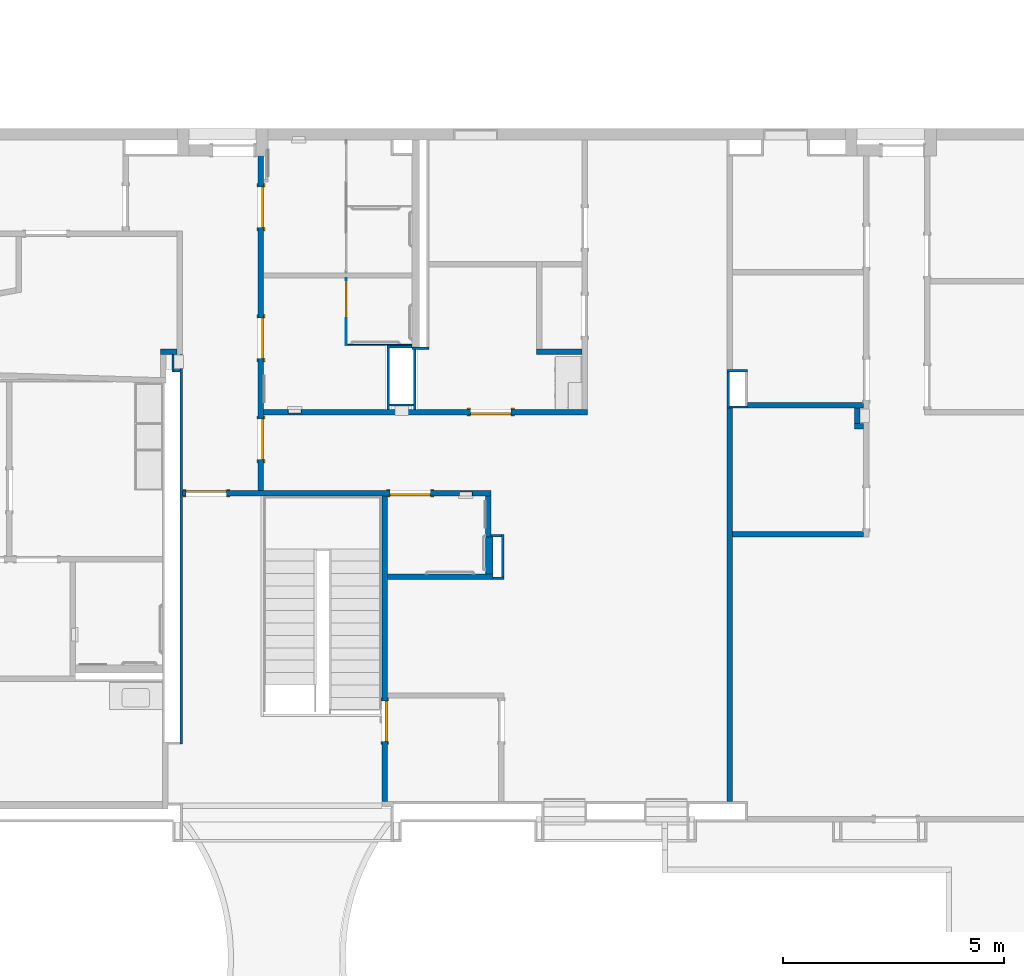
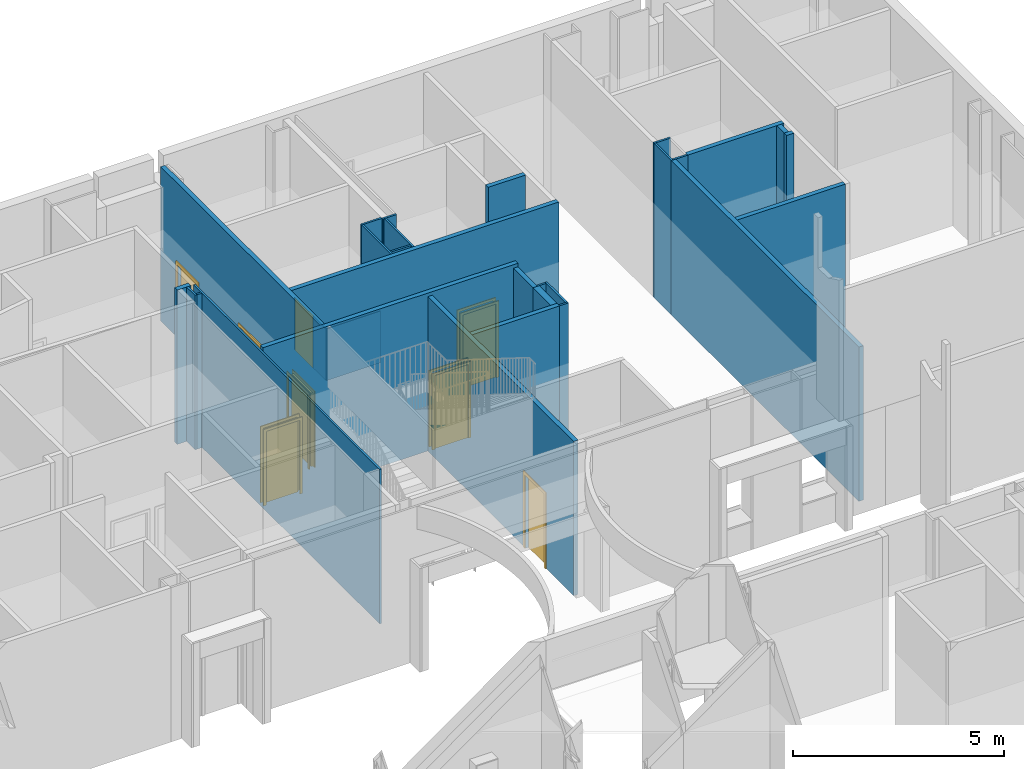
# One storey, part 39 of 82: 30 walls, 8 doors, 10 openings.
"""IFC2X3 building model written with IfcOpenShell, lengths in metres."""

import ifcopenshell
import ifcopenshell.guid

model = None  # the IFC model being written
_history = None  # IfcOwnerHistory: only IFC2X3 demands one
_inside = {}  # id of a spatial element -> (the spatial element, [elements in it])
_under = {}  # id of a project, library or spatial element -> (it, [spatial elements below it])
_declared = {}  # id of a project -> (the project, [libraries it declares])
_typed = {}  # id of a type object -> (the type object, [elements of that type])
_made_of = {}  # id of a material, layer set ... -> (it, [elements and type objects made of it])


def new_model(schema):
    """Start an empty IFC model of exactly this schema.

    Asked for "IFC4X3", IfcOpenShell would pick the latest addendum, in which some entities
    have other attributes; the version numbers below select the first issue.
    IFC2X3 requires an IfcOwnerHistory on every rooted entity: one is made here for all.
    """
    global model, _history
    if schema == "IFC4X3":
        model = ifcopenshell.file(schema_version=(4, 3, 0, 0))
    else:
        model = ifcopenshell.file(schema=schema)
    _inside.clear()
    _under.clear()
    _declared.clear()
    _typed.clear()
    _made_of.clear()
    _history = None
    if model.schema == "IFC2X3":
        org = make("IfcOrganization", Name="unknown")
        user = make(
            "IfcPersonAndOrganization",
            ThePerson=make("IfcPerson", FamilyName="unknown"),
            TheOrganization=org,
        )
        app = make(
            "IfcApplication",
            ApplicationDeveloper=org,
            Version="unknown",
            ApplicationFullName="unknown",
            ApplicationIdentifier="unknown",
        )
        _history = make(
            "IfcOwnerHistory",
            OwningUser=user,
            OwningApplication=app,
            ChangeAction="ADDED",
            CreationDate=0,
        )
    return model


def make(cls, **values):
    """One entity of the class cls with the attributes given. An attribute that is None is left unset."""
    return model.create_entity(
        cls, **{name: value for name, value in values.items() if value is not None}
    )


def entity(cls, *values):
    """Any entity or typed value of the class cls, its attributes in the order of the schema. None: left unset."""
    e = model.create_entity(cls)
    for i, value in enumerate(values):
        if value is not None:
            e[i] = value
    return e


def rooted(cls, **values):
    """An entity with a GlobalId (a new one), such as an element, a storey or a relation."""
    return make(cls, GlobalId=ifcopenshell.guid.new(), OwnerHistory=_history, **values)


def si_unit(unit_type, name, prefix=None):
    """IfcSIUnit, for example si_unit("LENGTHUNIT", "METRE", prefix="MILLI")."""
    return make("IfcSIUnit", UnitType=unit_type, Prefix=prefix, Name=name)


def converted_unit(unit_type, name, factor, base, dimensions=None, offset=None):
    """IfcConversionBasedUnit, such as the inch: factor (a typed value) times the base unit."""
    return make(
        "IfcConversionBasedUnit"
        if offset is None
        else "IfcConversionBasedUnitWithOffset",
        ConversionOffset=offset,
        Dimensions=None
        if dimensions is None
        else entity("IfcDimensionalExponents", *dimensions),
        UnitType=unit_type,
        Name=name,
        ConversionFactor=make(
            "IfcMeasureWithUnit", ValueComponent=factor, UnitComponent=base
        ),
    )


def assignment(units):
    """IfcUnitAssignment: the units of a project."""
    return None if units is None else make("IfcUnitAssignment", Units=units)


def point(xyz):
    """IfcCartesianPoint."""
    return None if xyz is None else make("IfcCartesianPoint", Coordinates=xyz)


def direction(xyz):
    """IfcDirection."""
    return None if xyz is None else make("IfcDirection", DirectionRatios=xyz)


def frame(location, z_axis=None, x_axis=None):
    """IfcAxis2Placement3D, a coordinate frame: its origin and axes. An axis left out is left unset."""
    return make(
        "IfcAxis2Placement3D",
        Location=point(location),
        Axis=direction(z_axis),
        RefDirection=direction(x_axis),
    )


def frame_2d(location, x_axis=None):
    """IfcAxis2Placement2D, a coordinate frame in the plane: its origin and x axis."""
    return make(
        "IfcAxis2Placement2D", Location=point(location), RefDirection=direction(x_axis)
    )


def origin():
    """The frame at (0, 0, 0) with its axes left unset."""
    return frame((0.0, 0.0, 0.0))


def origin_2d_with_axis():
    """The frame at (0, 0) in the plane with the x axis (1, 0) written out."""
    return frame_2d((0.0, 0.0), x_axis=(1.0, 0.0))


def place(relative_to, where):
    """IfcLocalPlacement: puts the frame where relative to a parent placement (None: the world)."""
    return make(
        "IfcLocalPlacement", PlacementRelTo=relative_to, RelativePlacement=where
    )


def context(
    kind, dimensions, precision=None, world=None, true_north=None, identifier=None
):
    """IfcGeometricRepresentationContext, for example the 3D "Model" context."""
    return make(
        "IfcGeometricRepresentationContext",
        ContextIdentifier=identifier,
        ContextType=kind,
        CoordinateSpaceDimension=dimensions,
        Precision=precision,
        WorldCoordinateSystem=world,
        TrueNorth=true_north,
    )


def project(units=None, contexts=None):
    """IfcProject with its units and contexts."""
    return rooted(
        "IfcProject",
        Name="project",
        RepresentationContexts=contexts,
        UnitsInContext=assignment(units),
    )


def spatial(cls, under=None, at=None, **own):
    """A site, building, storey or space (cls), placed at a placement, below another one or the project."""
    s = rooted(cls, ObjectPlacement=at, **own)
    if under is not None:
        _under.setdefault(under.id(), (under, []))[1].append(s)
    return s


def polyline(points):
    """IfcPolyline through the points."""
    return make("IfcPolyline", Points=[point(p) for p in points])


def profile(cls, at=None, kind="AREA", **sizes):
    """A parametric profile (cls). Its sizes go by their IFC names, for example OverallWidth=200.0."""
    return make(cls, ProfileType=kind, Position=at, **sizes)


def rectangle(**sizes):
    """IfcRectangleProfileDef."""
    return profile("IfcRectangleProfileDef", **sizes)


def outline(outer, holes=None, kind="AREA"):
    """IfcArbitraryClosedProfileDef: a profile drawn as a closed curve; with holes, ...WithVoids."""
    if holes is None:
        return make("IfcArbitraryClosedProfileDef", ProfileType=kind, OuterCurve=outer)
    return make(
        "IfcArbitraryProfileDefWithVoids",
        ProfileType=kind,
        OuterCurve=outer,
        InnerCurves=holes,
    )


def extrude(swept, where, along, depth):
    """IfcExtrudedAreaSolid: the profile swept, set in the frame where, extruded along a direction by depth."""
    return make(
        "IfcExtrudedAreaSolid",
        SweptArea=swept,
        Position=where,
        ExtrudedDirection=direction(along),
        Depth=depth,
    )


def shape(context_of_items, identifier, shape_type, items):
    """IfcShapeRepresentation: the items that make up one representation, for example the "Body"."""
    return make(
        "IfcShapeRepresentation",
        ContextOfItems=context_of_items,
        RepresentationIdentifier=identifier,
        RepresentationType=shape_type,
        Items=items,
    )


def source(mapping_origin, context_of_items, identifier, shape_type, items):
    """IfcRepresentationMap: a shape defined once, which mapped items show again and again."""
    return make(
        "IfcRepresentationMap",
        MappingOrigin=mapping_origin,
        MappedRepresentation=shape(context_of_items, identifier, shape_type, items),
    )


def transform(
    local_origin,
    x_axis=None,
    y_axis=None,
    z_axis=None,
    scale=None,
    scale2=None,
    scale3=None,
    uniform=True,
):
    """IfcCartesianTransformationOperator3D, or its non-uniform kind. x_axis, y_axis, z_axis: its Axis1, 2, 3."""
    if uniform:
        return make(
            "IfcCartesianTransformationOperator3D",
            Axis1=direction(x_axis),
            Axis2=direction(y_axis),
            LocalOrigin=point(local_origin),
            Scale=scale,
            Axis3=direction(z_axis),
        )
    return make(
        "IfcCartesianTransformationOperator3DnonUniform",
        Axis1=direction(x_axis),
        Axis2=direction(y_axis),
        LocalOrigin=point(local_origin),
        Scale=scale,
        Axis3=direction(z_axis),
        Scale2=scale2,
        Scale3=scale3,
    )


def mapped(mapping_source, mapping_target):
    """IfcMappedItem: shows the shape of a source again, moved by a transform."""
    return make(
        "IfcMappedItem", MappingSource=mapping_source, MappingTarget=mapping_target
    )


def material(Name=None, Category=None):
    """IfcMaterial."""
    return make("IfcMaterial", Name=Name, Category=Category)


def layer(
    of_material, thickness, ventilated=None, Name=None, Category=None, Priority=None
):
    """IfcMaterialLayer: one layer of a wall or slab, of a material (None: an air gap)."""
    return make(
        "IfcMaterialLayer",
        Material=of_material,
        LayerThickness=thickness,
        IsVentilated=ventilated,
        Name=Name,
        Category=Category,
        Priority=Priority,
    )


def layer_set(layers, Name=None):
    """IfcMaterialLayerSet."""
    return make("IfcMaterialLayerSet", MaterialLayers=layers, LayerSetName=Name)


def layer_usage(for_layer_set, set_direction, sense, offset, extent=None):
    """IfcMaterialLayerSetUsage: how a layer set lies in its element."""
    return make(
        "IfcMaterialLayerSetUsage",
        ForLayerSet=for_layer_set,
        LayerSetDirection=set_direction,
        DirectionSense=sense,
        OffsetFromReferenceLine=offset,
        ReferenceExtent=extent,
    )


def made_of(thing, what):
    """Note that an element or type object is made of a material, layer set ...; save() writes the relation."""
    if what is not None:
        _made_of.setdefault(what.id(), (what, []))[1].append(thing)
    return thing


def type_object(cls, material=None, **own):
    """A type object (cls), such as IfcWallType, which elements share."""
    return made_of(rooted(cls, **own), material)


def type_shapes(of_type, sources):
    """Give a type object the sources (RepresentationMaps) that its elements show as mapped items."""
    of_type.RepresentationMaps = sources


def element(
    cls,
    number,
    at=None,
    inside=None,
    cuts=None,
    type_object=None,
    material=None,
    context=None,
    identifier="Body",
    shape_type=None,
    held_by="IfcProductDefinitionShape",
    body=None,
    shapes=None,
    **own,
):
    """One element of the class cls, such as IfcWall. Its Tag is "e" and its number.

    at: its placement. inside: the storey or other place that contains it. cuts: it is an
    opening in that element (IfcRelVoidsElement). A single representation is given by context,
    identifier, shape_type and body (its items); several are given by shapes. held_by: the class
    of the entity that holds the representations. save() writes the other relations.
    """
    e = rooted(cls, Tag="e%d" % number, ObjectPlacement=at, **own)
    if body is not None:
        shapes = [shape(context, identifier, shape_type, body)]
    if shapes is not None:
        e.Representation = make(held_by, Representations=shapes)
    if inside is not None:
        _inside.setdefault(inside.id(), (inside, []))[1].append(e)
    if cuts is not None:
        rooted(
            "IfcRelVoidsElement", RelatingBuildingElement=cuts, RelatedOpeningElement=e
        )
    if type_object is not None:
        _typed.setdefault(type_object.id(), (type_object, []))[1].append(e)
    return made_of(e, material)


def fill(opening, filler):
    """IfcRelFillsElement: the door or window that sits in an opening."""
    return rooted(
        "IfcRelFillsElement",
        RelatingOpeningElement=opening,
        RelatedBuildingElement=filler,
    )


def aggregate(whole, parts):
    """IfcRelAggregates: a whole, such as a stair, and the parts it consists of."""
    return rooted("IfcRelAggregates", RelatingObject=whole, RelatedObjects=parts)


def save(model, path):
    """Write the relations noted so far, then the file.

    IfcRelAggregates (storeys below a building ...), IfcRelContainedInSpatialStructure (elements
    in a storey), IfcRelDefinesByType, IfcRelAssociatesMaterial and IfcRelDeclares: one each for
    every whole, place, type object, material and project.
    """
    for whole, parts in _under.values():
        aggregate(whole, parts)
    for where, things in _inside.values():
        rooted(
            "IfcRelContainedInSpatialStructure",
            RelatedElements=things,
            RelatingStructure=where,
        )
    for kind, things in _typed.values():
        rooted("IfcRelDefinesByType", RelatedObjects=things, RelatingType=kind)
    for what, things in _made_of.values():
        rooted("IfcRelAssociatesMaterial", RelatedObjects=things, RelatingMaterial=what)
    for by, libraries in _declared.values():
        rooted("IfcRelDeclares", RelatingContext=by, RelatedDefinitions=libraries)
    model.write(path)


model = new_model("IFC2X3")

# Units and contexts
model_context = context("Model", 3, precision=1e-09, world=origin())
plan_context = context("Plan", 3, precision=1e-09, world=origin())
ifc_project = project(units=[si_unit("LENGTHUNIT", "METRE"), si_unit("AREAUNIT", "SQUARE_METRE"), si_unit("VOLUMEUNIT", "CUBIC_METRE"), converted_unit("PLANEANGLEUNIT", "DEGREE", entity("IfcRatioMeasure", 0.01745329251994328), si_unit("PLANEANGLEUNIT", "RADIAN"), dimensions=[0, 0, 0, 0, 0, 0, 0]), si_unit("TIMEUNIT", "SECOND")], contexts=[model_context, plan_context])

# Site, building, storey
site_placement = place(None, origin())
site = spatial("IfcSite", under=ifc_project, at=site_placement, Name="Default", CompositionType="ELEMENT")
building_placement = place(site_placement, origin())
building = spatial("IfcBuilding", under=site, at=building_placement, CompositionType="ELEMENT")
storey_placement = place(building_placement, origin())
storey = spatial("IfcBuildingStorey", under=building, at=storey_placement, Name="First Floor", CompositionType="ELEMENT", Elevation=-3.531500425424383e-13)

# Wall, openings, doors
ifc_material_1 = material(Name="Plasterboard")
ifc_layer_1 = layer(ifc_material_1, 0.016)
ifc_material_2 = material(Name="Metal - Stud Layer")
ifc_layer_2 = layer(ifc_material_2, 0.092)
ifc_layer_3 = layer(ifc_material_1, 0.016)
ifc_layer_set_1 = layer_set([ifc_layer_1, ifc_layer_2, ifc_layer_3], Name="Basic Wall:Interior - Partition (92mm Stud)")
ifc_layer_usage_1 = layer_usage(ifc_layer_set_1, "AXIS2", "NEGATIVE", 0.062)
wall_1_placement = place(storey_placement, frame((-18.0580000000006, 42.28000069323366, 0.0), z_axis=(0.0, 0.0, 1.0), x_axis=(0.0, 1.0, 0.0)))
wall_1 = element("IfcWallStandardCase", 1, at=wall_1_placement, inside=storey, material=ifc_layer_usage_1, Name="Basic Wall:Interior - Partition (92mm Stud)", ObjectType="Basic Wall:Interior - Partition (92mm Stud)", context=model_context, shape_type="SweptSolid", body=[
    extrude(rectangle(XDim=7.696499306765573, YDim=0.1240000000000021, at=frame_2d((3.848249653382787, 0.0), x_axis=(-1.0, 0.0))), origin(), (0.0, 0.0, 1.0), 4.468000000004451),
])
opening_1_placement = place(wall_1_placement, frame((6.862999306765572, 0.06199999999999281, 0.0)))
opening_1 = element("IfcOpeningElement", 2, at=opening_1_placement, cuts=wall_1, Name="M_Single-Flush:0915 x 2134mm:0915 x 2134mm:1", ObjectType="Opening", context=model_context, shape_type="SweptSolid", body=[
    extrude(rectangle(XDim=0.9149999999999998, YDim=2.134, at=frame_2d((1.067, 0.4574999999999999), x_axis=(0.0, -1.0))), frame((0.0, 0.0, 0.0), z_axis=(0.0, -1.0, 0.0), x_axis=(0.0, 0.0, 1.0)), (0.0, 0.0, 1.0), 0.124),
])
opening_2_placement = place(wall_1_placement, frame((3.899999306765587, 0.06199999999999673, 0.0)))
opening_2 = element("IfcOpeningElement", 3, at=opening_2_placement, cuts=wall_1, Name="M_Single-Flush:0915 x 2134mm:0915 x 2134mm:1", ObjectType="Opening", context=model_context, shape_type="SweptSolid", body=[
    extrude(rectangle(XDim=0.9149999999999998, YDim=2.134, at=frame_2d((1.067, 0.4575), x_axis=(0.0, 1.0))), frame((0.0, 0.0, 0.0), z_axis=(0.0, -1.0, 0.0), x_axis=(0.0, 0.0, 1.0)), (0.0, 0.0, 1.0), 0.124),
])
opening_3_placement = place(wall_1_placement, frame((1.609999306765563, 0.06199999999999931, 0.0)))
opening_3 = element("IfcOpeningElement", 4, at=opening_3_placement, cuts=wall_1, Name="M_Single-Flush:0915 x 2134mm:0915 x 2134mm:1", ObjectType="Opening", context=model_context, shape_type="SweptSolid", body=[
    extrude(rectangle(XDim=0.9149999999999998, YDim=2.134, at=frame_2d((1.067, 0.4575000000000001), x_axis=(0.0, -1.0))), frame((0.0, 0.0, 0.0), z_axis=(0.0, -1.0, 0.0), x_axis=(0.0, 0.0, 1.0)), (0.0, 0.0, 1.0), 0.124),
])
door_style_1 = type_object("IfcDoorStyle", Name="0915 x 2134mm", ConstructionType="NOTDEFINED", OperationType="SINGLE_SWING_RIGHT", ParameterTakesPrecedence=False, Sizeable=False)
shared_shape_1 = source(origin(), model_context, "Body", "SweptSolid", [
    extrude(outline(polyline([(-0.5335, -1.123999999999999), (0.5334999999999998, -1.123999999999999), (0.5334999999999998, 1.086), (0.4574999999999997, 1.086), (0.4574999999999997, -1.048000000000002), (-0.4574999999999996, -1.048000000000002), (-0.4574999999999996, 1.086), (-0.5335, 1.086), (-0.5335, -1.123999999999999)])), frame((0.4575000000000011, 0.1239999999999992, 1.086), z_axis=(0.0, 1.0, 0.0), x_axis=(1.0, 0.0, 0.0)), (0.0, 0.0, 1.0), 0.02499999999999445),
    extrude(outline(polyline([(-1.123999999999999, -0.5334999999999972), (1.085999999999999, -0.5334999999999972), (1.085999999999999, -0.4575000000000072), (-1.048, -0.4575000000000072), (-1.048, 0.4575000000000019), (1.085999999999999, 0.4575000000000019), (1.085999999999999, 0.5335000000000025), (-1.123999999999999, 0.5335000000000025), (-1.123999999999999, -0.5334999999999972)])), frame((0.4575000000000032, -0.02500000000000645, 1.085999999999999), z_axis=(0.0, 1.0, 0.0), x_axis=(0.0, 0.0, -1.0)), (0.0, 0.0, 1.0), 0.02500000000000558),
    extrude(rectangle(XDim=0.051, YDim=0.9149999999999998, at=origin_2d_with_axis()), frame((0.4575000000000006, 0.09849999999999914, 0.0), z_axis=(0.0, 0.0, 1.0), x_axis=(0.0, 1.0, 0.0)), (0.0, 0.0, 1.0), 2.133999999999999),
])
type_shapes(door_style_1, [shared_shape_1])
door_1_placement = place(opening_2_placement, frame((0.0, 0.0, 0.0), z_axis=(0.0, 0.0, 1.0), x_axis=(-1.0, 0.0, 0.0)))
door_1 = element("IfcDoor", 5, at=door_1_placement, inside=storey, type_object=door_style_1, Name="M_Single-Flush:0915 x 2134mm:0915 x 2134mm", ObjectType="0915 x 2134mm", OverallHeight=2.134, OverallWidth=0.9149999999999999, context=model_context, shape_type="MappedRepresentation", body=[
    mapped(shared_shape_1, transform((0.0, 0.0, 0.0), scale=1.0)),
])
fill(opening_2, door_1)
door_style_2 = type_object("IfcDoorStyle", Name="0915 x 2134mm", ConstructionType="NOTDEFINED", OperationType="SINGLE_SWING_LEFT", ParameterTakesPrecedence=False, Sizeable=False)
shared_shape_2 = source(origin(), model_context, "Body", "SweptSolid", [
    extrude(outline(polyline([(-0.5335, -1.123999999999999), (0.5334999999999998, -1.123999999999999), (0.5334999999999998, 1.086), (0.4574999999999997, 1.086), (0.4574999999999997, -1.048000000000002), (-0.4574999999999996, -1.048000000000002), (-0.4574999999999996, 1.086), (-0.5335, 1.086), (-0.5335, -1.123999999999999)])), frame((0.4575000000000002, 0.1489999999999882, 1.086), z_axis=(0.0, -1.0, 0.0), x_axis=(-1.0, 0.0, 0.0)), (0.0, 0.0, 1.0), 0.02499999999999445),
    extrude(outline(polyline([(-1.123999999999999, -0.5334999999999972), (1.085999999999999, -0.5334999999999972), (1.085999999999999, -0.4575000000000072), (-1.048, -0.4575000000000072), (-1.048, 0.4575000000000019), (1.085999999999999, 0.4575000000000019), (1.085999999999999, 0.5335000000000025), (-1.123999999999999, 0.5335000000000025), (-1.123999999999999, -0.5334999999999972)])), frame((0.4574999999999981, 0.0, 1.085999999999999), z_axis=(0.0, -1.0, 0.0), x_axis=(0.0, 0.0, -1.0)), (0.0, 0.0, 1.0), 0.02500000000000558),
    extrude(rectangle(XDim=0.9149999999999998, YDim=0.051, at=origin_2d_with_axis()), frame((0.4575000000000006, 0.09849999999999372, 0.0)), (0.0, 0.0, 1.0), 2.133999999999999),
])
type_shapes(door_style_2, [shared_shape_2])
door_2_placement = place(opening_3_placement, frame((0.0, 0.0, 0.0), z_axis=(0.0, 0.0, 1.0), x_axis=(-1.0, 0.0, 0.0)))
door_2 = element("IfcDoor", 6, at=door_2_placement, inside=storey, type_object=door_style_2, Name="M_Single-Flush:0915 x 2134mm:0915 x 2134mm", ObjectType="0915 x 2134mm", OverallHeight=2.134, OverallWidth=0.9149999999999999, context=model_context, shape_type="MappedRepresentation", body=[
    mapped(shared_shape_2, transform((0.0, 0.0, 0.0), scale=1.0)),
])
fill(opening_3, door_2)
door_3_placement = place(opening_1_placement, frame((0.0, 0.0, 0.0), z_axis=(0.0, 0.0, 1.0), x_axis=(-1.0, 0.0, 0.0)))
door_3 = element("IfcDoor", 7, at=door_3_placement, inside=storey, type_object=door_style_2, Name="M_Single-Flush:0915 x 2134mm:0915 x 2134mm", ObjectType="0915 x 2134mm", OverallHeight=2.134, OverallWidth=0.9149999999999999, context=model_context, shape_type="MappedRepresentation", body=[
    mapped(shared_shape_2, transform((0.0, 0.0, 0.0), scale=1.0)),
])
fill(opening_1, door_3)

wall_2_placement = place(storey_placement, frame((-19.83000000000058, 42.21800069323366, 0.0)))
wall_2 = element("IfcWallStandardCase", 8, at=wall_2_placement, inside=storey, material=ifc_layer_usage_1, Name="Basic Wall:Interior - Partition (92mm Stud)", ObjectType="Basic Wall:Interior - Partition (92mm Stud)", context=model_context, shape_type="SweptSolid", body=[
    extrude(rectangle(XDim=6.979999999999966, YDim=0.1240000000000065, at=frame_2d((3.489999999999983, 0.0), x_axis=(-1.0, 0.0))), origin(), (0.0, 0.0, 1.0), 4.570000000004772),
])
opening_4_placement = place(wall_2_placement, origin())
element("IfcOpeningElement", 9, at=opening_4_placement, cuts=wall_2, ObjectType="Opening", context=model_context, shape_type="SweptSolid", body=[
    extrude(rectangle(XDim=1.362075, YDim=0.2984499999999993, at=origin_2d_with_axis()), frame((6.410899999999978, -0.1255000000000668, 1.041399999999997), z_axis=(0.0, 1.0, 0.0), x_axis=(0.0, 0.0, -1.0)), (0.0, 0.0, 1.0), 0.15240000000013),
])
opening_5_placement = place(wall_2_placement, frame((5.609000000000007, 0.06199999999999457, 0.0)))
opening_5 = element("IfcOpeningElement", 10, at=opening_5_placement, cuts=wall_2, Name="M_Single-Flush:0915 x 2134mm:0915 x 2134mm:1", ObjectType="Opening", context=model_context, shape_type="SweptSolid", body=[
    extrude(rectangle(XDim=0.9149999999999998, YDim=2.134, at=frame_2d((1.067, 0.4575), x_axis=(0.0, 1.0))), frame((0.0, 0.0, 0.0), z_axis=(0.0, -1.0, 0.0), x_axis=(0.0, 0.0, 1.0)), (0.0, 0.0, 1.0), 0.124),
])
opening_6_placement = place(wall_2_placement, frame((0.07999999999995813, -0.06199999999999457, 0.0)))
opening_6 = element("IfcOpeningElement", 11, at=opening_6_placement, cuts=wall_2, Name="M_Single-Flush:0915 x 2134mm:0915 x 2134mm:1", ObjectType="Opening", context=model_context, shape_type="SweptSolid", body=[
    extrude(rectangle(XDim=0.9149999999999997, YDim=2.134, at=frame_2d((1.067, 0.4575000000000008), x_axis=(0.0, -1.0))), frame((0.0, 0.0, 0.0), z_axis=(0.0, 1.0, 0.0), x_axis=(0.0, 0.0, 1.0)), (0.0, 0.0, 1.0), 0.124),
])
door_4_placement = place(opening_5_placement, frame((0.0, 0.0, 0.0), z_axis=(0.0, 0.0, 1.0), x_axis=(-1.0, 0.0, 0.0)))
door_4 = element("IfcDoor", 12, at=door_4_placement, inside=storey, type_object=door_style_1, Name="M_Single-Flush:0915 x 2134mm:0915 x 2134mm", ObjectType="0915 x 2134mm", OverallHeight=2.134, OverallWidth=0.9149999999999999, context=model_context, shape_type="MappedRepresentation", body=[
    mapped(shared_shape_1, transform((0.0, 0.0, 0.0), scale=1.0)),
])
fill(opening_5, door_4)
door_5_placement = place(opening_6_placement, origin())
door_5 = element("IfcDoor", 13, at=door_5_placement, inside=storey, type_object=door_style_2, Name="M_Single-Flush:0915 x 2134mm:0915 x 2134mm", ObjectType="0915 x 2134mm", OverallHeight=2.134, OverallWidth=0.9149999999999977, context=model_context, shape_type="MappedRepresentation", body=[
    mapped(shared_shape_2, transform((0.0, 0.0, 0.0), scale=1.0)),
])
fill(opening_6, door_5)

# Wall, opening, door
wall_3_placement = place(storey_placement, frame((-15.25800000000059, 35.23999999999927, 0.0), z_axis=(0.0, 0.0, 1.0), x_axis=(0.0, 1.0, 0.0)))
wall_3 = element("IfcWallStandardCase", 14, at=wall_3_placement, inside=storey, material=ifc_layer_usage_1, Name="Basic Wall:Interior - Partition (92mm Stud)", ObjectType="Basic Wall:Interior - Partition (92mm Stud)", context=model_context, shape_type="SweptSolid", body=[
    extrude(rectangle(XDim=6.916000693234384, YDim=0.1240000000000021, at=frame_2d((3.458000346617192, 0.0), x_axis=(-1.0, 0.0))), origin(), (0.0, 0.0, 1.0), 4.46800000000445),
])
opening_7_placement = place(wall_3_placement, frame((2.275999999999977, 0.0619999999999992, 0.0)))
opening_7 = element("IfcOpeningElement", 15, at=opening_7_placement, cuts=wall_3, Name="M_Single-Flush:0915 x 2134mm:0915 x 2134mm:1", ObjectType="Opening", context=model_context, shape_type="SweptSolid", body=[
    extrude(rectangle(XDim=0.9149999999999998, YDim=2.134, at=frame_2d((1.067, 0.4575000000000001), x_axis=(0.0, -1.0))), frame((0.0, 0.0, 0.0), z_axis=(0.0, -1.0, 0.0), x_axis=(0.0, 0.0, 1.0)), (0.0, 0.0, 1.0), 0.124),
])
door_6_placement = place(opening_7_placement, frame((0.0, 0.0, 0.0), z_axis=(0.0, 0.0, 1.0), x_axis=(-1.0, 0.0, 0.0)))
door_6 = element("IfcDoor", 16, at=door_6_placement, inside=storey, type_object=door_style_2, Name="M_Single-Flush:0915 x 2134mm:0915 x 2134mm", ObjectType="0915 x 2134mm", OverallHeight=2.134, OverallWidth=0.9149999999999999, context=model_context, shape_type="MappedRepresentation", body=[
    mapped(shared_shape_2, transform((0.0, 0.0, 0.0), scale=1.0)),
])
fill(opening_7, door_6)

# Wall, openings, door
wall_4_placement = place(storey_placement, frame((-10.67000000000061, 44.05199999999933, 0.0), z_axis=(0.0, 0.0, 1.0), x_axis=(-1.0, 0.0, 0.0)))
wall_4 = element("IfcWallStandardCase", 17, at=wall_4_placement, inside=storey, material=ifc_layer_usage_1, Name="Basic Wall:Interior - Partition (92mm Stud)", ObjectType="Basic Wall:Interior - Partition (92mm Stud)", context=model_context, shape_type="SweptSolid", body=[
    extrude(rectangle(XDim=7.325999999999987, YDim=0.1240000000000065, at=frame_2d((3.662999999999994, 0.0), x_axis=(-1.0, 0.0))), origin(), (0.0, 0.0, 1.0), 4.468000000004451),
])
opening_8_placement = place(wall_4_placement, origin())
element("IfcOpeningElement", 18, at=opening_8_placement, cuts=wall_4, ObjectType="Opening", context=model_context, shape_type="SweptSolid", body=[
    extrude(rectangle(XDim=1.362075, YDim=0.2984499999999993, at=origin_2d_with_axis()), frame((6.620900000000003, -0.1255000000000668, 1.041399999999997), z_axis=(0.0, 1.0, 0.0), x_axis=(0.0, 0.0, -1.0)), (0.0, 0.0, 1.0), 0.15240000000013),
])
opening_9_placement = place(wall_4_placement, frame((1.730999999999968, -0.06200000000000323, 0.0)))
opening_9 = element("IfcOpeningElement", 19, at=opening_9_placement, cuts=wall_4, Name="M_Single-Flush:0915 x 2134mm:0915 x 2134mm:1", ObjectType="Opening", context=model_context, shape_type="SweptSolid", body=[
    extrude(rectangle(XDim=0.9149999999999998, YDim=2.134, at=frame_2d((1.067, 0.4575), x_axis=(0.0, 1.0))), frame((0.0, 0.0, 0.0), z_axis=(0.0, 1.0, 0.0), x_axis=(0.0, 0.0, 1.0)), (0.0, 0.0, 1.0), 0.124),
])
door_7_placement = place(opening_9_placement, origin())
door_7 = element("IfcDoor", 20, at=door_7_placement, inside=storey, type_object=door_style_1, Name="M_Single-Flush:0915 x 2134mm:0915 x 2134mm", ObjectType="0915 x 2134mm", OverallHeight=2.134, OverallWidth=0.9149999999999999, context=model_context, shape_type="MappedRepresentation", body=[
    mapped(shared_shape_1, transform((0.0, 0.0, 0.0), scale=1.0)),
])
fill(opening_9, door_7)

# Walls
ifc_layer_4 = layer(ifc_material_2, 0.038)
ifc_layer_5 = layer(ifc_material_1, 0.016)
ifc_layer_set_2 = layer_set([ifc_layer_4, ifc_layer_5], Name="Basic Wall:Interior - Furring (38 mm Stud)")
ifc_layer_usage_2 = layer_usage(ifc_layer_set_2, "AXIS2", "NEGATIVE", 0.027)
wall_5_placement = place(storey_placement, frame((-19.85700000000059, 36.53499999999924, 0.0), z_axis=(0.0, 0.0, 1.0), x_axis=(0.0, 1.0, 0.0)))
element("IfcWallStandardCase", 21, at=wall_5_placement, inside=storey, material=ifc_layer_usage_2, Name="Basic Wall:Interior - Furring (38 mm Stud)", ObjectType="Basic Wall:Interior - Furring (38 mm Stud)", context=model_context, shape_type="SweptSolid", body=[
    extrude(rectangle(XDim=8.825000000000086, YDim=0.05399999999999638, at=frame_2d((4.412500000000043, 0.0), x_axis=(-1.0, 0.0))), origin(), (0.0, 0.0, 1.0), 4.46800000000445),
])
wall_6_placement = place(storey_placement, frame((-7.448000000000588, 35.23999999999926, 0.0), z_axis=(0.0, 0.0, 1.0), x_axis=(0.0, 1.0, 0.0)))
element("IfcWallStandardCase", 22, at=wall_6_placement, inside=storey, material=ifc_layer_usage_1, Name="Basic Wall:Interior - Partition (92mm Stud)", ObjectType="Basic Wall:Interior - Partition (92mm Stud)", context=model_context, shape_type="SweptSolid", body=[
    extrude(rectangle(XDim=8.900000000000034, YDim=0.124, at=frame_2d((4.450000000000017, 0.0), x_axis=(-1.0, 0.0))), origin(), (0.0, 0.0, 1.0), 4.46800000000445),
])
wall_7_placement = place(storey_placement, frame((-4.424000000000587, 44.20199999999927, 0.0), z_axis=(0.0, 0.0, 1.0), x_axis=(-1.0, 0.0, 0.0)))
element("IfcWallStandardCase", 23, at=wall_7_placement, inside=storey, material=ifc_layer_usage_1, Name="Basic Wall:Interior - Partition (92mm Stud)", ObjectType="Basic Wall:Interior - Partition (92mm Stud)", context=model_context, shape_type="SweptSolid", body=[
    extrude(rectangle(XDim=2.626000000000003, YDim=0.1240000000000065, at=frame_2d((1.313000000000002, 0.0), x_axis=(-1.0, 0.0))), origin(), (0.0, 0.0, 1.0), 4.46800000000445),
])
wall_8_placement = place(storey_placement, frame((-14.57700000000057, 44.11399999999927, 0.0), z_axis=(0.0, 0.0, 1.0), x_axis=(0.0, 1.0, 0.0)))
element("IfcWallStandardCase", 24, at=wall_8_placement, inside=storey, material=ifc_layer_usage_2, Name="Basic Wall:Interior - Furring (38 mm Stud)", ObjectType="Basic Wall:Interior - Furring (38 mm Stud)", context=model_context, shape_type="SweptSolid", body=[
    extrude(rectangle(XDim=1.351000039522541, YDim=0.05400000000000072, at=frame_2d((0.6755000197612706, 0.0), x_axis=(-1.0, 0.0))), origin(), (0.0, 0.0, 1.0), 4.46800000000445),
])
wall_9_placement = place(storey_placement, frame((-14.64000000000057, 45.52800003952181, 0.0), z_axis=(0.0, 0.0, 1.0), x_axis=(-1.0, 0.0, 0.0)))
element("IfcWallStandardCase", 25, at=wall_9_placement, inside=storey, material=ifc_layer_usage_2, Name="Basic Wall:Interior - Furring (38 mm Stud)", ObjectType="Basic Wall:Interior - Furring (38 mm Stud)", context=model_context, shape_type="SweptSolid", body=[
    extrude(rectangle(XDim=0.559999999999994, YDim=0.05400000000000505, at=frame_2d((0.279999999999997, 0.0), x_axis=(-1.0, 0.0))), origin(), (0.0, 0.0, 1.0), 4.46800000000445),
])
ifc_layer_usage_3 = layer_usage(ifc_layer_set_2, "AXIS2", "POSITIVE", -0.027)
wall_10_placement = place(storey_placement, frame((-14.26000000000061, 45.49200003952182, 0.0), z_axis=(0.0, 0.0, 1.0), x_axis=(-1.0, 0.0, 0.0)))
element("IfcWallStandardCase", 26, at=wall_10_placement, inside=storey, material=ifc_layer_usage_3, Name="Basic Wall:Interior - Furring (38 mm Stud)", ObjectType="Basic Wall:Interior - Furring (38 mm Stud)", context=model_context, shape_type="SweptSolid", body=[
    extrude(rectangle(XDim=0.3799999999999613, YDim=0.05400000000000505, at=frame_2d((0.1899999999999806, 0.0), x_axis=(-1.0, 0.0))), origin(), (0.0, 0.0, 1.0), 4.468000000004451),
])
ifc_layer_6 = layer(ifc_material_2, 0.152)
ifc_layer_7 = layer(ifc_material_1, 0.016)
ifc_layer_set_3 = layer_set([ifc_layer_6, ifc_layer_7], Name="Basic Wall:Interior - Furring (152 mm Stud)")
ifc_layer_usage_4 = layer_usage(ifc_layer_set_3, "AXIS2", "POSITIVE", -0.08399999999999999)
wall_11_placement = place(storey_placement, frame((-12.89000000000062, 40.38399999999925, 0.0), z_axis=(0.0, 0.0, 1.0), x_axis=(0.0, 1.0, 0.0)))
element("IfcWallStandardCase", 27, at=wall_11_placement, inside=storey, material=ifc_layer_usage_4, Name="Basic Wall:Interior - Furring (152 mm Stud)", ObjectType="Basic Wall:Interior - Furring (152 mm Stud)", context=model_context, shape_type="SweptSolid", body=[
    extrude(rectangle(XDim=0.8420000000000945, YDim=0.1680000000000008, at=frame_2d((0.4210000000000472, 0.0), x_axis=(-1.0, 0.0))), origin(), (0.0, 0.0, 1.0), 4.46800000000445),
])
wall_12_placement = place(storey_placement, frame((-7.456000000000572, 44.16699999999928, 0.0)))
element("IfcWallStandardCase", 28, at=wall_12_placement, inside=storey, material=ifc_layer_usage_2, Name="Basic Wall:Interior - Furring (38 mm Stud)", ObjectType="Basic Wall:Interior - Furring (38 mm Stud)", context=model_context, shape_type="SweptSolid", body=[
    extrude(rectangle(XDim=0.4059999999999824, YDim=0.05400000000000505, at=frame_2d((0.2029999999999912, 0.0), x_axis=(-1.0, 0.0))), origin(), (0.0, 0.0, 1.0), 4.46800000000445),
])
wall_13_placement = place(storey_placement, frame((-12.61400000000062, 41.25299999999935, 0.0), z_axis=(0.0, 0.0, 1.0), x_axis=(-1.0, 0.0, 0.0)))
element("IfcWallStandardCase", 29, at=wall_13_placement, inside=storey, material=ifc_layer_usage_2, Name="Basic Wall:Interior - Furring (38 mm Stud)", ObjectType="Basic Wall:Interior - Furring (38 mm Stud)", context=model_context, shape_type="SweptSolid", body=[
    extrude(rectangle(XDim=0.2359999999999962, YDim=0.05400000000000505, at=frame_2d((0.1179999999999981, 0.0), x_axis=(-1.0, 0.0))), origin(), (0.0, 0.0, 1.0), 4.46800000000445),
])
wall_14_placement = place(storey_placement, frame((-7.483000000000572, 44.95599999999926, 0.0), z_axis=(0.0, 0.0, 1.0), x_axis=(0.0, -1.0, 0.0)))
element("IfcWallStandardCase", 30, at=wall_14_placement, inside=storey, material=ifc_layer_usage_2, Name="Basic Wall:Interior - Furring (38 mm Stud)", ObjectType="Basic Wall:Interior - Furring (38 mm Stud)", context=model_context, shape_type="SweptSolid", body=[
    extrude(rectangle(XDim=0.8159999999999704, YDim=0.05400000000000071, at=frame_2d((0.4079999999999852, 0.0), x_axis=(-1.0, 0.0))), origin(), (0.0, 0.0, 1.0), 4.46800000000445),
])
wall_15_placement = place(storey_placement, frame((-12.91200000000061, 42.15600069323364, 0.0), z_axis=(0.0, 0.0, 1.0), x_axis=(0.0, -1.0, 0.0)))
element("IfcWallStandardCase", 31, at=wall_15_placement, inside=storey, material=ifc_layer_usage_1, Name="Basic Wall:Interior - Partition (92mm Stud)", ObjectType="Basic Wall:Interior - Partition (92mm Stud)", context=model_context, shape_type="SweptSolid", body=[
    extrude(rectangle(XDim=0.9300006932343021, YDim=0.1240000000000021, at=frame_2d((0.4650003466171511, 0.0), x_axis=(-1.0, 0.0))), origin(), (0.0, 0.0, 1.0), 4.46800000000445),
])
wall_16_placement = place(storey_placement, frame((-12.80600000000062, 40.32199999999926, 0.0), z_axis=(0.0, 0.0, 1.0), x_axis=(-1.0, 0.0, 0.0)))
element("IfcWallStandardCase", 32, at=wall_16_placement, inside=storey, material=ifc_layer_usage_1, Name="Basic Wall:Interior - Partition (92mm Stud)", ObjectType="Basic Wall:Interior - Partition (92mm Stud)", context=model_context, shape_type="SweptSolid", body=[
    extrude(rectangle(XDim=2.389999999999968, YDim=0.1240000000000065, at=frame_2d((1.194999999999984, 0.0), x_axis=(-1.0, 0.0))), origin(), (0.0, 0.0, 1.0), 4.468000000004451),
])
wall_17_placement = place(storey_placement, frame((-12.80600000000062, 40.28699999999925, 0.0)))
element("IfcWallStandardCase", 33, at=wall_17_placement, inside=storey, material=ifc_layer_usage_2, Name="Basic Wall:Interior - Furring (38 mm Stud)", ObjectType="Basic Wall:Interior - Furring (38 mm Stud)", context=model_context, shape_type="SweptSolid", body=[
    extrude(rectangle(XDim=0.2459999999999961, YDim=0.05400000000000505, at=frame_2d((0.122999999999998, 0.0), x_axis=(-1.0, 0.0))), origin(), (0.0, 0.0, 1.0), 4.46800000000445),
])
wall_18_placement = place(storey_placement, frame((-19.95400000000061, 45.42199999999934, 0.0), z_axis=(0.0, 0.0, 1.0), x_axis=(-1.0, 0.0, 0.0)))
element("IfcWallStandardCase", 34, at=wall_18_placement, inside=storey, material=ifc_layer_usage_1, Name="Basic Wall:Interior - Partition (92mm Stud)", ObjectType="Basic Wall:Interior - Partition (92mm Stud)", context=model_context, shape_type="SweptSolid", body=[
    extrude(rectangle(XDim=0.3750000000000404, YDim=0.1240000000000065, at=frame_2d((0.1875000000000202, 0.0), x_axis=(-1.0, 0.0))), origin(), (0.0, 0.0, 1.0), 4.468000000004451),
])
wall_19_placement = place(storey_placement, frame((-15.17300000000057, 45.50100003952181, 0.0), z_axis=(0.0, 0.0, 1.0), x_axis=(0.0, -1.0, 0.0)))
element("IfcWallStandardCase", 35, at=wall_19_placement, inside=storey, material=ifc_layer_usage_2, Name="Basic Wall:Interior - Furring (38 mm Stud)", ObjectType="Basic Wall:Interior - Furring (38 mm Stud)", context=model_context, shape_type="SweptSolid", body=[
    extrude(rectangle(XDim=1.387000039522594, YDim=0.05400000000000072, at=frame_2d((0.6935000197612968, 0.0), x_axis=(-1.0, 0.0))), origin(), (0.0, 0.0, 1.0), 4.46800000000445),
])
wall_20_placement = place(storey_placement, frame((-4.424000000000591, 41.29199999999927, 0.0), z_axis=(0.0, 0.0, 1.0), x_axis=(-1.0, 0.0, 0.0)))
element("IfcWallStandardCase", 36, at=wall_20_placement, inside=storey, material=ifc_layer_usage_1, Name="Basic Wall:Interior - Partition (92mm Stud)", ObjectType="Basic Wall:Interior - Partition (92mm Stud)", context=model_context, shape_type="SweptSolid", body=[
    extrude(rectangle(XDim=2.961999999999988, YDim=0.1240000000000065, at=frame_2d((1.480999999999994, 0.0), x_axis=(-1.0, 0.0))), origin(), (0.0, 0.0, 1.0), 4.46800000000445),
])
wall_21_placement = place(storey_placement, frame((-7.050000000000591, 44.98299999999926, 0.0), z_axis=(0.0, 0.0, 1.0), x_axis=(-1.0, 0.0, 0.0)))
element("IfcWallStandardCase", 37, at=wall_21_placement, inside=storey, material=ifc_layer_usage_2, Name="Basic Wall:Interior - Furring (38 mm Stud)", ObjectType="Basic Wall:Interior - Furring (38 mm Stud)", context=model_context, shape_type="SweptSolid", body=[
    extrude(rectangle(XDim=0.459999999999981, YDim=0.05400000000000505, at=frame_2d((0.2299999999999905, 0.0), x_axis=(-1.0, 0.0))), origin(), (0.0, 0.0, 1.0), 4.46800000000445),
])
wall_22_placement = place(storey_placement, frame((-10.79400000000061, 45.41199999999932, 0.0), z_axis=(0.0, 0.0, 1.0), x_axis=(-1.0, 0.0, 0.0)))
element("IfcWallStandardCase", 38, at=wall_22_placement, inside=storey, material=ifc_layer_usage_1, Name="Basic Wall:Interior - Partition (92mm Stud)", ObjectType="Basic Wall:Interior - Partition (92mm Stud)", context=model_context, shape_type="SweptSolid", body=[
    extrude(rectangle(XDim=1.025999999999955, YDim=0.1240000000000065, at=frame_2d((0.5129999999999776, 0.0), x_axis=(-1.0, 0.0))), origin(), (0.0, 0.0, 1.0), 4.468000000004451),
])
wall_23_placement = place(storey_placement, frame((-12.58700000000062, 40.31399999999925, 0.0), z_axis=(0.0, 0.0, 1.0), x_axis=(0.0, 1.0, 0.0)))
element("IfcWallStandardCase", 39, at=wall_23_placement, inside=storey, material=ifc_layer_usage_2, Name="Basic Wall:Interior - Furring (38 mm Stud)", ObjectType="Basic Wall:Interior - Furring (38 mm Stud)", context=model_context, shape_type="SweptSolid", body=[
    extrude(rectangle(XDim=0.9660000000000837, YDim=0.05400000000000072, at=frame_2d((0.4830000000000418, 0.0), x_axis=(-1.0, 0.0))), origin(), (0.0, 0.0, 1.0), 4.46800000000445),
])
wall_24_placement = place(storey_placement, frame((-19.88400000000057, 44.98299999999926, 0.0), z_axis=(0.0, 0.0, 1.0), x_axis=(-1.0, 0.0, 0.0)))
element("IfcWallStandardCase", 40, at=wall_24_placement, inside=storey, material=ifc_layer_usage_2, Name="Basic Wall:Interior - Furring (38 mm Stud)", ObjectType="Basic Wall:Interior - Furring (38 mm Stud)", context=model_context, shape_type="SweptSolid", body=[
    extrude(rectangle(XDim=0.137500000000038, YDim=0.05400000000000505, at=frame_2d((0.06875000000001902, 0.0), x_axis=(-1.0, 0.0))), origin(), (0.0, 0.0, 1.0), 4.46800000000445),
])
wall_25_placement = place(storey_placement, frame((-4.621500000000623, 43.72799999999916, 0.0)))
element("IfcWallStandardCase", 41, at=wall_25_placement, inside=storey, material=ifc_layer_usage_1, Name="Basic Wall:Interior - Partition (92mm Stud)", ObjectType="Basic Wall:Interior - Partition (92mm Stud)", context=model_context, shape_type="SweptSolid", body=[
    extrude(rectangle(XDim=0.1975000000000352, YDim=0.1240000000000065, at=frame_2d((0.09875000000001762, 0.0), x_axis=(-1.0, 0.0))), origin(), (0.0, 0.0, 1.0), 4.46800000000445),
])
wall_26_placement = place(storey_placement, frame((-4.559500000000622, 44.13999999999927, 0.0), z_axis=(0.0, 0.0, 1.0), x_axis=(0.0, -1.0, 0.0)))
element("IfcWallStandardCase", 42, at=wall_26_placement, inside=storey, material=ifc_layer_usage_1, Name="Basic Wall:Interior - Partition (92mm Stud)", ObjectType="Basic Wall:Interior - Partition (92mm Stud)", context=model_context, shape_type="SweptSolid", body=[
    extrude(rectangle(XDim=0.3500000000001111, YDim=0.124, at=frame_2d((0.1750000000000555, 0.0), x_axis=(-1.0, 0.0))), origin(), (0.0, 0.0, 1.0), 4.46800000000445),
])

# Wall, opening, door
ifc_material_3 = material(Name="Laminate - Ivory, Matte")
ifc_layer_8 = layer(ifc_material_3, 0.025)
ifc_layer_set_4 = layer_set([ifc_layer_8], Name="Basic Wall:Interior - Toilet Partition (25mm)")
ifc_layer_usage_5 = layer_usage(ifc_layer_set_4, "AXIS2", "NEGATIVE", 0.0125)
wall_27_placement = place(storey_placement, frame((-16.1274996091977, 45.56399937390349, 0.25), z_axis=(0.0, 0.0, 1.0), x_axis=(0.0, 1.0, 0.0)))
wall_27 = element("IfcWallStandardCase", 43, at=wall_27_placement, inside=storey, material=ifc_layer_usage_5, Name="Basic Wall:Interior - Toilet Partition (25mm)", ObjectType="Basic Wall:Interior - Toilet Partition (25mm)", context=model_context, shape_type="SweptSolid", body=[
    extrude(rectangle(XDim=1.516000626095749, YDim=0.02499999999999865, at=frame_2d((0.7580003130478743, 0.0), x_axis=(-1.0, 0.0))), origin(), (0.0, 0.0, 1.0), 1.5),
])
opening_10_placement = place(wall_27_placement, frame((0.6110006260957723, -0.01250000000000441, 0.0)))
opening_10 = element("IfcOpeningElement", 44, at=opening_10_placement, cuts=wall_27, Name="M_Toilet Partition:0865 x 1500mm:0865 x 1500mm:1", ObjectType="Opening", context=model_context, shape_type="SweptSolid", body=[
    extrude(rectangle(XDim=0.8649999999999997, YDim=1.5, at=frame_2d((0.7499999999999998, 0.4324999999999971), x_axis=(0.0, 1.0))), frame((0.0, 0.0, 0.0), z_axis=(0.0, 1.0, 0.0), x_axis=(0.0, 0.0, 1.0)), (0.0, 0.0, 1.0), 0.025),
])
door_style_3 = type_object("IfcDoorStyle", Name="0865 x 1500mm", ConstructionType="NOTDEFINED", OperationType="SINGLE_SWING_RIGHT", ParameterTakesPrecedence=False, Sizeable=False)
shared_shape_3 = source(origin(), model_context, "Body", "SweptSolid", [
    extrude(rectangle(XDim=0.025, YDim=0.8649999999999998, at=origin_2d_with_axis()), frame((0.4325000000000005, 0.0124999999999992, 0.0), z_axis=(0.0, 0.0, 1.0), x_axis=(0.0, 1.0, 0.0)), (0.0, 0.0, 1.0), 1.499999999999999),
])
type_shapes(door_style_3, [shared_shape_3])
door_8_placement = place(opening_10_placement, origin())
door_8 = element("IfcDoor", 45, at=door_8_placement, inside=storey, type_object=door_style_3, Name="M_Toilet Partition:0865 x 1500mm:0865 x 1500mm", ObjectType="0865 x 1500mm", OverallHeight=1.5, OverallWidth=0.8650000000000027, context=model_context, shape_type="MappedRepresentation", body=[
    mapped(shared_shape_3, transform((0.0, 0.0, 0.0), scale=1.0)),
])
fill(opening_10, door_8)

# Walls
wall_28_placement = place(storey_placement, frame((-20.04850000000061, 45.35999999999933, 0.0), z_axis=(0.0, 0.0, 1.0), x_axis=(0.0, -1.0, 0.0)))
element("IfcWallStandardCase", 46, at=wall_28_placement, inside=storey, material=ifc_layer_usage_3, Name="Basic Wall:Interior - Furring (38 mm Stud)", ObjectType="Basic Wall:Interior - Furring (38 mm Stud)", context=model_context, shape_type="SweptSolid", body=[
    extrude(rectangle(XDim=0.4040000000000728, YDim=0.05399999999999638, at=frame_2d((0.2020000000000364, 0.0), x_axis=(-1.0, 0.0))), origin(), (0.0, 0.0, 1.0), 4.46800000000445),
])
wall_29_placement = place(storey_placement, frame((-14.64000000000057, 45.57649937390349, 0.25), z_axis=(0.0, 0.0, 1.0), x_axis=(-1.0, 0.0, 0.0)))
element("IfcWallStandardCase", 47, at=wall_29_placement, inside=storey, material=ifc_layer_usage_5, Name="Basic Wall:Interior - Toilet Partition (25mm)", ObjectType="Basic Wall:Interior - Toilet Partition (25mm)", context=model_context, shape_type="SweptSolid", body=[
    extrude(rectangle(XDim=1.474999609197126, YDim=0.02499999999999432, at=frame_2d((0.7374998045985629, 0.0), x_axis=(-1.0, 0.0))), origin(), (0.0, 0.0, 1.0), 1.5),
])
wall_30_placement = place(storey_placement, frame((-14.60400000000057, 44.21099999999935, 0.0), z_axis=(0.0, 0.0, 1.0), x_axis=(-1.0, 0.0, 0.0)))
element("IfcWallStandardCase", 48, at=wall_30_placement, inside=storey, material=ifc_layer_usage_3, Name="Basic Wall:Interior - Furring (38 mm Stud)", ObjectType="Basic Wall:Interior - Furring (38 mm Stud)", context=model_context, shape_type="SweptSolid", body=[
    extrude(rectangle(XDim=0.5420000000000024, YDim=0.05400000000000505, at=frame_2d((0.2710000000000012, 0.0), x_axis=(-1.0, 0.0))), origin(), (0.0, 0.0, 1.0), 4.46800000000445),
])

save(model, "model.ifc")
